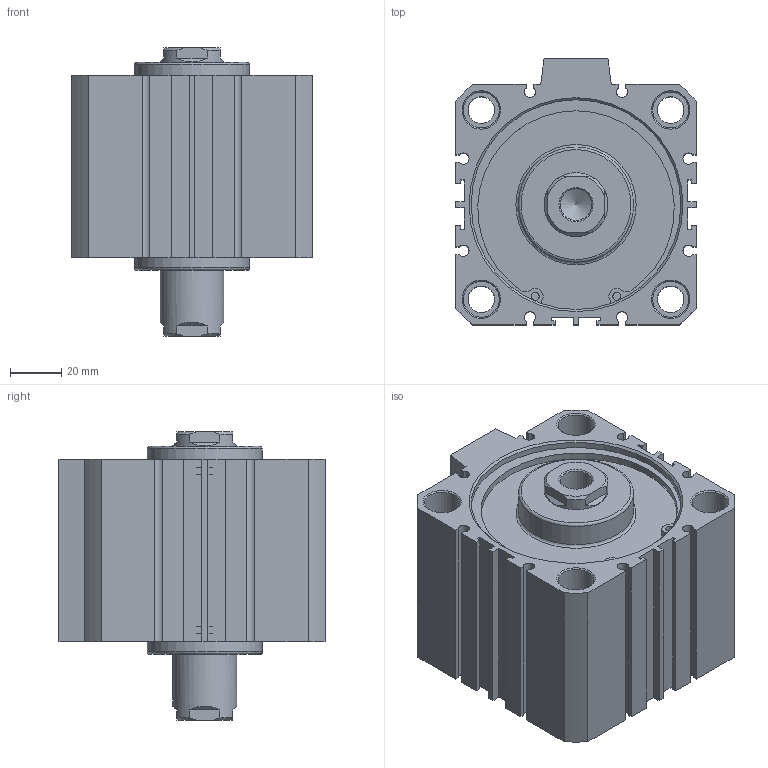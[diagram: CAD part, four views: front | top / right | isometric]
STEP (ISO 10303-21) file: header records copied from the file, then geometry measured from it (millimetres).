
FILE_DESCRIPTION((''),'2;1');
FILE_NAME('I:\3D電子目錄\氣缸\JDD\JDD-S\JDD80-S\JDD80x20-S.stp','2007-02-09T09:00:07',('662F206'),(''),'Autodesk Inventor 10','Autodesk Inventor 10','');
FILE_SCHEMA(('AUTOMOTIVE_DESIGN { 1 0 10303 214 1 1 1 1 }'));
Length unit declared in the file: millimetre
Products named in the file (3): JDD80-S; R 形環 82
Assembly tree (3 placements, depth 2):
  JDD80-S
    JDD80-S
    R 形環 82  x2
Bounding box: 94 x 104 x 112.7 mm (x, y, z)
Volume: 574858.2 mm3; surface area: 84191.5 mm2
Topology: 3 solids, 3 shells, 200 faces, 502 edges, 330 vertices
Faces by surface type: plane 116, cylinder 52, cone 24, bspline 6, torus 2
Full cylindrical faces by diameter (mm): 3.1 x4, 3.5 x2, 10.4 x4, 14 x8, 25 x2, 45 x2, 82 x4, 85.5 x2
Entity records: 5511 total; most frequent: CARTESIAN_POINT 1094, DIRECTION 908, ORIENTED_EDGE 824, EDGE_CURVE 412, AXIS2_PLACEMENT_3D 324, VERTEX_POINT 300, EDGE_LOOP 272, VECTOR 260
